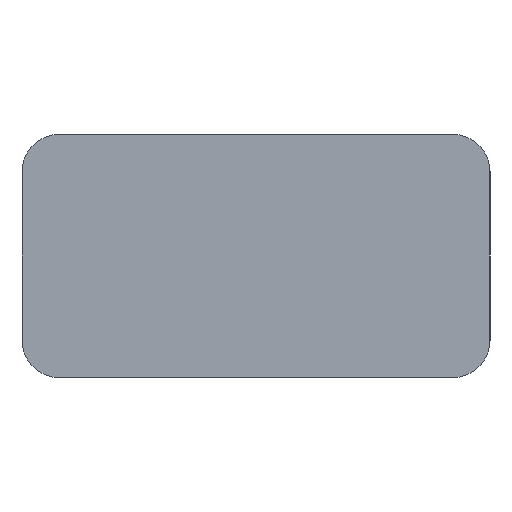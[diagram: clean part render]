
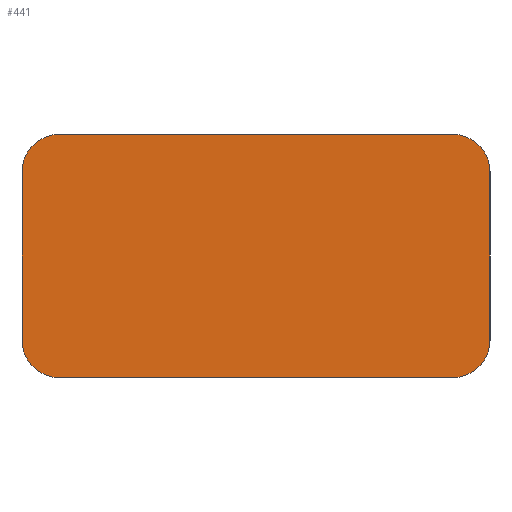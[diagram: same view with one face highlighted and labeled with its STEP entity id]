
A CAD part, left-side view. The second image highlights one B-rep face of the part: STEP entity #441.
In plain terms, the highlighted planar face has unit normal (-1, 0, 0).
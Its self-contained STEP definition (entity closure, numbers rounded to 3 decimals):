
#32 = PLANE('',#33);
#33 = AXIS2_PLACEMENT_3D('',#34,#35,#36);
#34 = CARTESIAN_POINT('',(29.83,-38.389,-1.49));
#35 = DIRECTION('',(0.,0.,-1.));
#36 = DIRECTION('',(1.,0.,0.));
#57 = VERTEX_POINT('',#58);
#58 = CARTESIAN_POINT('',(29.83,-37.389,-1.49));
#72 = CYLINDRICAL_SURFACE('',#73,1.);
#73 = AXIS2_PLACEMENT_3D('',#74,#75,#76);
#74 = CARTESIAN_POINT('',(29.83,-37.389,-2.49));
#75 = DIRECTION('',(1.,0.,0.));
#76 = DIRECTION('',(0.,0.,1.));
#84 = EDGE_CURVE('',#57,#85,#87,.T.);
#85 = VERTEX_POINT('',#86);
#86 = CARTESIAN_POINT('',(29.83,-26.889,-1.49));
#87 = SURFACE_CURVE('',#88,(#92,#99),.PCURVE_S1.);
#88 = LINE('',#89,#90);
#89 = CARTESIAN_POINT('',(29.83,-38.389,-1.49));
#90 = VECTOR('',#91,1.);
#91 = DIRECTION('',(0.,1.,0.));
#92 = PCURVE('',#32,#93);
#93 = DEFINITIONAL_REPRESENTATION('',(#94),#98);
#94 = LINE('',#95,#96);
#95 = CARTESIAN_POINT('',(0.,0.));
#96 = VECTOR('',#97,1.);
#97 = DIRECTION('',(0.,-1.));
#98 = ( GEOMETRIC_REPRESENTATION_CONTEXT(2) 
PARAMETRIC_REPRESENTATION_CONTEXT() REPRESENTATION_CONTEXT('2D SPACE',''
  ) );
#99 = PCURVE('',#100,#105);
#100 = PLANE('',#101);
#101 = AXIS2_PLACEMENT_3D('',#102,#103,#104);
#102 = CARTESIAN_POINT('',(29.83,-38.389,-1.49));
#103 = DIRECTION('',(1.,0.,0.));
#104 = DIRECTION('',(0.,0.,-1.));
#105 = DEFINITIONAL_REPRESENTATION('',(#106),#110);
#106 = LINE('',#107,#108);
#107 = CARTESIAN_POINT('',(0.,0.));
#108 = VECTOR('',#109,1.);
#109 = DIRECTION('',(0.,1.));
#110 = ( GEOMETRIC_REPRESENTATION_CONTEXT(2) 
PARAMETRIC_REPRESENTATION_CONTEXT() REPRESENTATION_CONTEXT('2D SPACE',''
  ) );
#126 = CYLINDRICAL_SURFACE('',#127,1.);
#127 = AXIS2_PLACEMENT_3D('',#128,#129,#130);
#128 = CARTESIAN_POINT('',(29.83,-26.889,-2.49));
#129 = DIRECTION('',(1.,0.,0.));
#130 = DIRECTION('',(0.,0.,1.));
#182 = PLANE('',#183);
#183 = AXIS2_PLACEMENT_3D('',#184,#185,#186);
#184 = CARTESIAN_POINT('',(29.83,-38.389,-1.49));
#185 = DIRECTION('',(0.,1.,0.));
#186 = DIRECTION('',(1.,0.,0.));
#215 = CYLINDRICAL_SURFACE('',#216,1.);
#216 = AXIS2_PLACEMENT_3D('',#217,#218,#219);
#217 = CARTESIAN_POINT('',(29.83,-37.389,-6.99));
#218 = DIRECTION('',(1.,0.,0.));
#219 = DIRECTION('',(0.,0.,-1.));
#243 = PLANE('',#244);
#244 = AXIS2_PLACEMENT_3D('',#245,#246,#247);
#245 = CARTESIAN_POINT('',(29.83,-38.389,-7.99));
#246 = DIRECTION('',(0.,0.,-1.));
#247 = DIRECTION('',(1.,0.,0.));
#272 = CYLINDRICAL_SURFACE('',#273,1.);
#273 = AXIS2_PLACEMENT_3D('',#274,#275,#276);
#274 = CARTESIAN_POINT('',(29.83,-26.889,-6.99));
#275 = DIRECTION('',(1.,0.,0.));
#276 = DIRECTION('',(0.,0.,-1.));
#300 = PLANE('',#301);
#301 = AXIS2_PLACEMENT_3D('',#302,#303,#304);
#302 = CARTESIAN_POINT('',(29.83,-25.889,-1.49));
#303 = DIRECTION('',(0.,1.,0.));
#304 = DIRECTION('',(1.,0.,0.));
#341 = EDGE_CURVE('',#57,#342,#344,.T.);
#342 = VERTEX_POINT('',#343);
#343 = CARTESIAN_POINT('',(29.83,-38.389,-2.49));
#344 = SURFACE_CURVE('',#345,(#350,#357),.PCURVE_S1.);
#345 = CIRCLE('',#346,1.);
#346 = AXIS2_PLACEMENT_3D('',#347,#348,#349);
#347 = CARTESIAN_POINT('',(29.83,-37.389,-2.49));
#348 = DIRECTION('',(1.,0.,0.));
#349 = DIRECTION('',(0.,-1.,0.));
#350 = PCURVE('',#72,#351);
#351 = DEFINITIONAL_REPRESENTATION('',(#352),#356);
#352 = LINE('',#353,#354);
#353 = CARTESIAN_POINT('',(-4.712,0.));
#354 = VECTOR('',#355,1.);
#355 = DIRECTION('',(1.,0.));
#356 = ( GEOMETRIC_REPRESENTATION_CONTEXT(2) 
PARAMETRIC_REPRESENTATION_CONTEXT() REPRESENTATION_CONTEXT('2D SPACE',''
  ) );
#357 = PCURVE('',#100,#358);
#358 = DEFINITIONAL_REPRESENTATION('',(#359),#363);
#359 = CIRCLE('',#360,1.);
#360 = AXIS2_PLACEMENT_2D('',#361,#362);
#361 = CARTESIAN_POINT('',(1.,1.));
#362 = DIRECTION('',(0.,-1.));
#363 = ( GEOMETRIC_REPRESENTATION_CONTEXT(2) 
PARAMETRIC_REPRESENTATION_CONTEXT() REPRESENTATION_CONTEXT('2D SPACE',''
  ) );
#391 = EDGE_CURVE('',#85,#392,#394,.T.);
#392 = VERTEX_POINT('',#393);
#393 = CARTESIAN_POINT('',(29.83,-25.889,-2.49));
#394 = SURFACE_CURVE('',#395,(#400,#407),.PCURVE_S1.);
#395 = CIRCLE('',#396,1.);
#396 = AXIS2_PLACEMENT_3D('',#397,#398,#399);
#397 = CARTESIAN_POINT('',(29.83,-26.889,-2.49));
#398 = DIRECTION('',(-1.,-0.,0.));
#399 = DIRECTION('',(0.,-1.,0.));
#400 = PCURVE('',#126,#401);
#401 = DEFINITIONAL_REPRESENTATION('',(#402),#406);
#402 = LINE('',#403,#404);
#403 = CARTESIAN_POINT('',(1.571,-0.));
#404 = VECTOR('',#405,1.);
#405 = DIRECTION('',(-1.,0.));
#406 = ( GEOMETRIC_REPRESENTATION_CONTEXT(2) 
PARAMETRIC_REPRESENTATION_CONTEXT() REPRESENTATION_CONTEXT('2D SPACE',''
  ) );
#407 = PCURVE('',#100,#408);
#408 = DEFINITIONAL_REPRESENTATION('',(#409),#417);
#409 = ( BOUNDED_CURVE() B_SPLINE_CURVE(2,(#410,#411,#412,#413,#414,#415
,#416),.UNSPECIFIED.,.T.,.F.) B_SPLINE_CURVE_WITH_KNOTS((1,2,2,2,2,1),(
    -2.094,0.,2.094,4.189,6.283,
8.378),.UNSPECIFIED.) CURVE() GEOMETRIC_REPRESENTATION_ITEM() 
RATIONAL_B_SPLINE_CURVE((1.,0.5,1.,0.5,1.,0.5,1.)) REPRESENTATION_ITEM(
  '') );
#410 = CARTESIAN_POINT('',(1.,10.5));
#411 = CARTESIAN_POINT('',(-0.732,10.5));
#412 = CARTESIAN_POINT('',(0.134,12.));
#413 = CARTESIAN_POINT('',(1.,13.5));
#414 = CARTESIAN_POINT('',(1.866,12.));
#415 = CARTESIAN_POINT('',(2.732,10.5));
#416 = CARTESIAN_POINT('',(1.,10.5));
#417 = ( GEOMETRIC_REPRESENTATION_CONTEXT(2) 
PARAMETRIC_REPRESENTATION_CONTEXT() REPRESENTATION_CONTEXT('2D SPACE',''
  ) );
#441 = ADVANCED_FACE('',(#442),#100,.F.);
#442 = FACE_BOUND('',#443,.F.);
#443 = EDGE_LOOP('',(#444,#445,#446,#469,#497,#520,#544,#565));
#444 = ORIENTED_EDGE('',*,*,#84,.F.);
#445 = ORIENTED_EDGE('',*,*,#341,.T.);
#446 = ORIENTED_EDGE('',*,*,#447,.T.);
#447 = EDGE_CURVE('',#342,#448,#450,.T.);
#448 = VERTEX_POINT('',#449);
#449 = CARTESIAN_POINT('',(29.83,-38.389,-6.99));
#450 = SURFACE_CURVE('',#451,(#455,#462),.PCURVE_S1.);
#451 = LINE('',#452,#453);
#452 = CARTESIAN_POINT('',(29.83,-38.389,-1.49));
#453 = VECTOR('',#454,1.);
#454 = DIRECTION('',(0.,0.,-1.));
#455 = PCURVE('',#100,#456);
#456 = DEFINITIONAL_REPRESENTATION('',(#457),#461);
#457 = LINE('',#458,#459);
#458 = CARTESIAN_POINT('',(0.,0.));
#459 = VECTOR('',#460,1.);
#460 = DIRECTION('',(1.,0.));
#461 = ( GEOMETRIC_REPRESENTATION_CONTEXT(2) 
PARAMETRIC_REPRESENTATION_CONTEXT() REPRESENTATION_CONTEXT('2D SPACE',''
  ) );
#462 = PCURVE('',#182,#463);
#463 = DEFINITIONAL_REPRESENTATION('',(#464),#468);
#464 = LINE('',#465,#466);
#465 = CARTESIAN_POINT('',(0.,0.));
#466 = VECTOR('',#467,1.);
#467 = DIRECTION('',(0.,1.));
#468 = ( GEOMETRIC_REPRESENTATION_CONTEXT(2) 
PARAMETRIC_REPRESENTATION_CONTEXT() REPRESENTATION_CONTEXT('2D SPACE',''
  ) );
#469 = ORIENTED_EDGE('',*,*,#470,.F.);
#470 = EDGE_CURVE('',#471,#448,#473,.T.);
#471 = VERTEX_POINT('',#472);
#472 = CARTESIAN_POINT('',(29.83,-37.389,-7.99));
#473 = SURFACE_CURVE('',#474,(#479,#490),.PCURVE_S1.);
#474 = CIRCLE('',#475,1.);
#475 = AXIS2_PLACEMENT_3D('',#476,#477,#478);
#476 = CARTESIAN_POINT('',(29.83,-37.389,-6.99));
#477 = DIRECTION('',(-1.,-0.,0.));
#478 = DIRECTION('',(0.,-1.,0.));
#479 = PCURVE('',#100,#480);
#480 = DEFINITIONAL_REPRESENTATION('',(#481),#489);
#481 = ( BOUNDED_CURVE() B_SPLINE_CURVE(2,(#482,#483,#484,#485,#486,#487
,#488),.UNSPECIFIED.,.T.,.F.) B_SPLINE_CURVE_WITH_KNOTS((1,2,2,2,2,1),(
    -2.094,0.,2.094,4.189,6.283,
8.378),.UNSPECIFIED.) CURVE() GEOMETRIC_REPRESENTATION_ITEM() 
RATIONAL_B_SPLINE_CURVE((1.,0.5,1.,0.5,1.,0.5,1.)) REPRESENTATION_ITEM(
  '') );
#482 = CARTESIAN_POINT('',(5.5,0.));
#483 = CARTESIAN_POINT('',(3.768,0.));
#484 = CARTESIAN_POINT('',(4.634,1.5));
#485 = CARTESIAN_POINT('',(5.5,3.));
#486 = CARTESIAN_POINT('',(6.366,1.5));
#487 = CARTESIAN_POINT('',(7.232,0.));
#488 = CARTESIAN_POINT('',(5.5,0.));
#489 = ( GEOMETRIC_REPRESENTATION_CONTEXT(2) 
PARAMETRIC_REPRESENTATION_CONTEXT() REPRESENTATION_CONTEXT('2D SPACE',''
  ) );
#490 = PCURVE('',#215,#491);
#491 = DEFINITIONAL_REPRESENTATION('',(#492),#496);
#492 = LINE('',#493,#494);
#493 = CARTESIAN_POINT('',(4.712,-0.));
#494 = VECTOR('',#495,1.);
#495 = DIRECTION('',(-1.,0.));
#496 = ( GEOMETRIC_REPRESENTATION_CONTEXT(2) 
PARAMETRIC_REPRESENTATION_CONTEXT() REPRESENTATION_CONTEXT('2D SPACE',''
  ) );
#497 = ORIENTED_EDGE('',*,*,#498,.T.);
#498 = EDGE_CURVE('',#471,#499,#501,.T.);
#499 = VERTEX_POINT('',#500);
#500 = CARTESIAN_POINT('',(29.83,-26.889,-7.99));
#501 = SURFACE_CURVE('',#502,(#506,#513),.PCURVE_S1.);
#502 = LINE('',#503,#504);
#503 = CARTESIAN_POINT('',(29.83,-38.389,-7.99));
#504 = VECTOR('',#505,1.);
#505 = DIRECTION('',(0.,1.,0.));
#506 = PCURVE('',#100,#507);
#507 = DEFINITIONAL_REPRESENTATION('',(#508),#512);
#508 = LINE('',#509,#510);
#509 = CARTESIAN_POINT('',(6.5,0.));
#510 = VECTOR('',#511,1.);
#511 = DIRECTION('',(0.,1.));
#512 = ( GEOMETRIC_REPRESENTATION_CONTEXT(2) 
PARAMETRIC_REPRESENTATION_CONTEXT() REPRESENTATION_CONTEXT('2D SPACE',''
  ) );
#513 = PCURVE('',#243,#514);
#514 = DEFINITIONAL_REPRESENTATION('',(#515),#519);
#515 = LINE('',#516,#517);
#516 = CARTESIAN_POINT('',(0.,0.));
#517 = VECTOR('',#518,1.);
#518 = DIRECTION('',(0.,-1.));
#519 = ( GEOMETRIC_REPRESENTATION_CONTEXT(2) 
PARAMETRIC_REPRESENTATION_CONTEXT() REPRESENTATION_CONTEXT('2D SPACE',''
  ) );
#520 = ORIENTED_EDGE('',*,*,#521,.T.);
#521 = EDGE_CURVE('',#499,#522,#524,.T.);
#522 = VERTEX_POINT('',#523);
#523 = CARTESIAN_POINT('',(29.83,-25.889,-6.99));
#524 = SURFACE_CURVE('',#525,(#530,#537),.PCURVE_S1.);
#525 = CIRCLE('',#526,1.);
#526 = AXIS2_PLACEMENT_3D('',#527,#528,#529);
#527 = CARTESIAN_POINT('',(29.83,-26.889,-6.99));
#528 = DIRECTION('',(1.,0.,0.));
#529 = DIRECTION('',(0.,-1.,0.));
#530 = PCURVE('',#100,#531);
#531 = DEFINITIONAL_REPRESENTATION('',(#532),#536);
#532 = CIRCLE('',#533,1.);
#533 = AXIS2_PLACEMENT_2D('',#534,#535);
#534 = CARTESIAN_POINT('',(5.5,11.5));
#535 = DIRECTION('',(0.,-1.));
#536 = ( GEOMETRIC_REPRESENTATION_CONTEXT(2) 
PARAMETRIC_REPRESENTATION_CONTEXT() REPRESENTATION_CONTEXT('2D SPACE',''
  ) );
#537 = PCURVE('',#272,#538);
#538 = DEFINITIONAL_REPRESENTATION('',(#539),#543);
#539 = LINE('',#540,#541);
#540 = CARTESIAN_POINT('',(-1.571,0.));
#541 = VECTOR('',#542,1.);
#542 = DIRECTION('',(1.,0.));
#543 = ( GEOMETRIC_REPRESENTATION_CONTEXT(2) 
PARAMETRIC_REPRESENTATION_CONTEXT() REPRESENTATION_CONTEXT('2D SPACE',''
  ) );
#544 = ORIENTED_EDGE('',*,*,#545,.F.);
#545 = EDGE_CURVE('',#392,#522,#546,.T.);
#546 = SURFACE_CURVE('',#547,(#551,#558),.PCURVE_S1.);
#547 = LINE('',#548,#549);
#548 = CARTESIAN_POINT('',(29.83,-25.889,-1.49));
#549 = VECTOR('',#550,1.);
#550 = DIRECTION('',(0.,0.,-1.));
#551 = PCURVE('',#100,#552);
#552 = DEFINITIONAL_REPRESENTATION('',(#553),#557);
#553 = LINE('',#554,#555);
#554 = CARTESIAN_POINT('',(0.,12.5));
#555 = VECTOR('',#556,1.);
#556 = DIRECTION('',(1.,0.));
#557 = ( GEOMETRIC_REPRESENTATION_CONTEXT(2) 
PARAMETRIC_REPRESENTATION_CONTEXT() REPRESENTATION_CONTEXT('2D SPACE',''
  ) );
#558 = PCURVE('',#300,#559);
#559 = DEFINITIONAL_REPRESENTATION('',(#560),#564);
#560 = LINE('',#561,#562);
#561 = CARTESIAN_POINT('',(0.,0.));
#562 = VECTOR('',#563,1.);
#563 = DIRECTION('',(0.,1.));
#564 = ( GEOMETRIC_REPRESENTATION_CONTEXT(2) 
PARAMETRIC_REPRESENTATION_CONTEXT() REPRESENTATION_CONTEXT('2D SPACE',''
  ) );
#565 = ORIENTED_EDGE('',*,*,#391,.F.);
